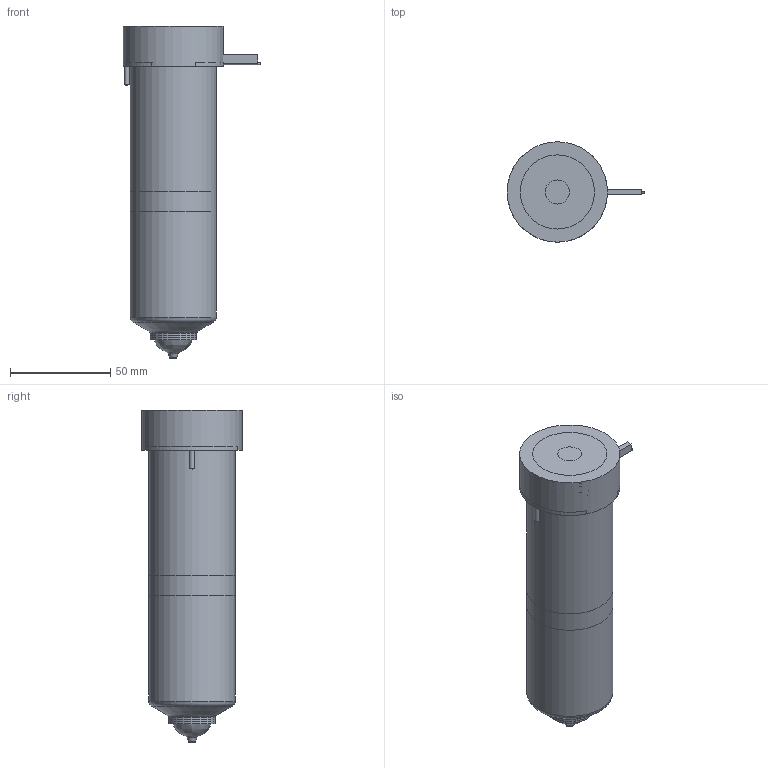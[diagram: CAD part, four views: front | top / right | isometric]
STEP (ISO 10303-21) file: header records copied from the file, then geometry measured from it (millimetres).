
FILE_DESCRIPTION(/* description */ (''),/* implementation_level */ '2;1');
FILE_NAME(/* name */ 'BXOV27145_250C_b',/* time_stamp */ '2007-01-18T08:47:52+13:00',/* author */ (''),/* organization */ (''),/* preprocessor_version */ 'ST-DEVELOPER v9',/* originating_system */ 'UGS - NX 4.0',/* authorisation */ '');
FILE_SCHEMA (('CONFIG_CONTROL_DESIGN'));
Length unit declared in the file: millimetre
Products named in the file (1): BXOV27145_250C_b
Bounding box: 68.6 x 50 x 165.48 mm (x, y, z)
Volume: 428879.5 mm3; surface area: 54397.2 mm2
Topology: 6 solids, 6 shells, 86 faces, 171 edges, 109 vertices
Faces by surface type: plane 35, cylinder 25, cone 14, torus 9, bspline 3
Full cylindrical faces by diameter (mm): 1 x3, 2.5 x2, 5 x1, 12 x1, 16.8 x1, 17 x1, 22.61 x1, 23.01 x2, 27.5 x1, 38.1 x1, 43 x2, 50 x1
Entity records: 2273 total; most frequent: CARTESIAN_POINT 571, DIRECTION 356, ORIENTED_EDGE 254, AXIS2_PLACEMENT_3D 159, EDGE_LOOP 134, EDGE_CURVE 127, VERTEX_POINT 102, ADVANCED_FACE 86
